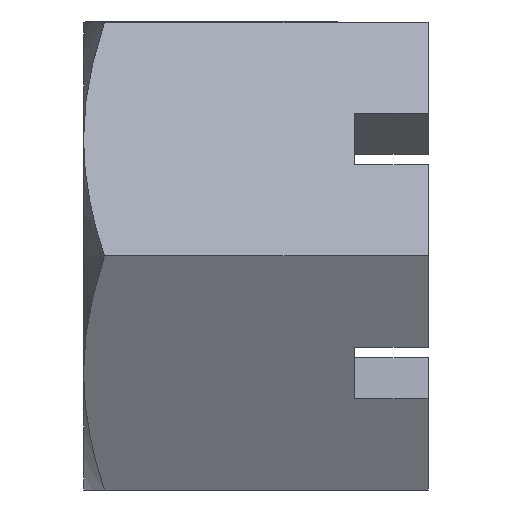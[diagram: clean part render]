
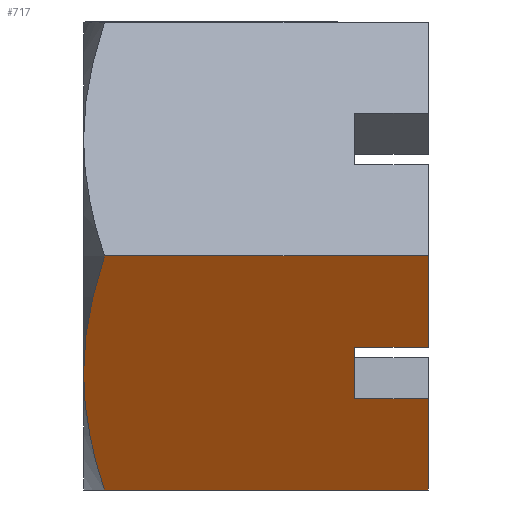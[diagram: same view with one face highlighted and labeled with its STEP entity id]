
A CAD part, front view. The second image highlights one B-rep face of the part: STEP entity #717.
In plain terms, the highlighted planar face has unit normal (0, -0.866, -0.5).
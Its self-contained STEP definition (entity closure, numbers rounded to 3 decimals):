
#24=(
BOUNDED_CURVE()
B_SPLINE_CURVE(2,(#1168,#1169,#1170),.UNSPECIFIED.,.F.,.F.)
B_SPLINE_CURVE_WITH_KNOTS((3,3),(3.179,6.011),
 .UNSPECIFIED.)
CURVE()
GEOMETRIC_REPRESENTATION_ITEM()
RATIONAL_B_SPLINE_CURVE((1.,1.043,1.009))
REPRESENTATION_ITEM('')
);
#25=(
BOUNDED_CURVE()
B_SPLINE_CURVE(2,(#1172,#1173,#1174),.UNSPECIFIED.,.F.,.F.)
B_SPLINE_CURVE_WITH_KNOTS((3,3),(0.347,3.179),
 .UNSPECIFIED.)
CURVE()
GEOMETRIC_REPRESENTATION_ITEM()
RATIONAL_B_SPLINE_CURVE((1.009,1.043,1.))
REPRESENTATION_ITEM('')
);
#80=FACE_OUTER_BOUND('',#118,.T.);
#118=EDGE_LOOP('',(#586,#587,#588,#589,#590,#591,#592,#593,#594));
#151=LINE('',#1040,#224);
#192=LINE('',#1152,#265);
#195=LINE('',#1158,#268);
#197=LINE('',#1162,#270);
#199=LINE('',#1166,#272);
#200=LINE('',#1176,#273);
#201=LINE('',#1177,#274);
#224=VECTOR('',#841,10.);
#265=VECTOR('',#936,10.);
#268=VECTOR('',#943,10.);
#270=VECTOR('',#947,10.);
#272=VECTOR('',#951,10.);
#273=VECTOR('',#952,10.);
#274=VECTOR('',#953,10.);
#294=VERTEX_POINT('',#1037);
#295=VERTEX_POINT('',#1039);
#333=VERTEX_POINT('',#1151);
#334=VERTEX_POINT('',#1157);
#335=VERTEX_POINT('',#1161);
#336=VERTEX_POINT('',#1165);
#337=VERTEX_POINT('',#1167);
#338=VERTEX_POINT('',#1171);
#339=VERTEX_POINT('',#1175);
#367=EDGE_CURVE('',#294,#295,#151,.T.);
#422=EDGE_CURVE('',#333,#295,#192,.T.);
#425=EDGE_CURVE('',#334,#333,#195,.T.);
#427=EDGE_CURVE('',#335,#334,#197,.T.);
#429=EDGE_CURVE('',#336,#294,#199,.T.);
#430=EDGE_CURVE('',#337,#336,#24,.T.);
#431=EDGE_CURVE('',#338,#337,#25,.T.);
#432=EDGE_CURVE('',#338,#339,#200,.T.);
#433=EDGE_CURVE('',#335,#339,#201,.T.);
#586=ORIENTED_EDGE('',*,*,#427,.T.);
#587=ORIENTED_EDGE('',*,*,#425,.T.);
#588=ORIENTED_EDGE('',*,*,#422,.T.);
#589=ORIENTED_EDGE('',*,*,#367,.F.);
#590=ORIENTED_EDGE('',*,*,#429,.F.);
#591=ORIENTED_EDGE('',*,*,#430,.F.);
#592=ORIENTED_EDGE('',*,*,#431,.F.);
#593=ORIENTED_EDGE('',*,*,#432,.T.);
#594=ORIENTED_EDGE('',*,*,#433,.F.);
#685=PLANE('',#783);
#717=ADVANCED_FACE('',(#80),#685,.T.);
#783=AXIS2_PLACEMENT_3D('',#1164,#949,#950);
#841=DIRECTION('',(0.,0.5,-0.866));
#936=DIRECTION('',(1.,0.,0.));
#943=DIRECTION('',(0.,-0.5,0.866));
#947=DIRECTION('',(-1.,0.,0.));
#949=DIRECTION('center_axis',(0.,-0.866,-0.5));
#950=DIRECTION('ref_axis',(0.,0.5,-0.866));
#951=DIRECTION('',(1.,0.,0.));
#952=DIRECTION('',(1.,0.,0.));
#953=DIRECTION('',(0.,0.5,-0.866));
#1037=CARTESIAN_POINT('',(35.,-54.848,0.));
#1039=CARTESIAN_POINT('',(35.,-44.136,-18.554));
#1040=CARTESIAN_POINT('',(35.,-54.848,0.));
#1151=CARTESIAN_POINT('',(20.,-44.136,-18.554));
#1152=CARTESIAN_POINT('',(17.5,-44.136,-18.554));
#1157=CARTESIAN_POINT('',(20.,-38.136,-28.946));
#1158=CARTESIAN_POINT('',(20.,-47.992,-11.875));
#1161=CARTESIAN_POINT('',(35.,-38.136,-28.946));
#1162=CARTESIAN_POINT('',(17.5,-38.136,-28.946));
#1164=CARTESIAN_POINT('Origin',(0.,-54.848,0.));
#1165=CARTESIAN_POINT('',(-30.757,-54.848,0.));
#1166=CARTESIAN_POINT('',(0.,-54.848,0.));
#1167=CARTESIAN_POINT('',(-35.,-41.136,-23.75));
#1168=CARTESIAN_POINT('Ctrl Pts',(-35.,-41.136,-23.75));
#1169=CARTESIAN_POINT('Ctrl Pts',(-35.,-47.5,-12.728));
#1170=CARTESIAN_POINT('Ctrl Pts',(-30.757,-54.848,0.));
#1171=CARTESIAN_POINT('',(-30.757,-27.424,-47.5));
#1172=CARTESIAN_POINT('Ctrl Pts',(-30.757,-27.424,-47.5));
#1173=CARTESIAN_POINT('Ctrl Pts',(-35.,-34.772,-34.772));
#1174=CARTESIAN_POINT('Ctrl Pts',(-35.,-41.136,-23.75));
#1175=CARTESIAN_POINT('',(35.,-27.424,-47.5));
#1176=CARTESIAN_POINT('',(0.,-27.424,-47.5));
#1177=CARTESIAN_POINT('',(35.,-54.848,0.));
